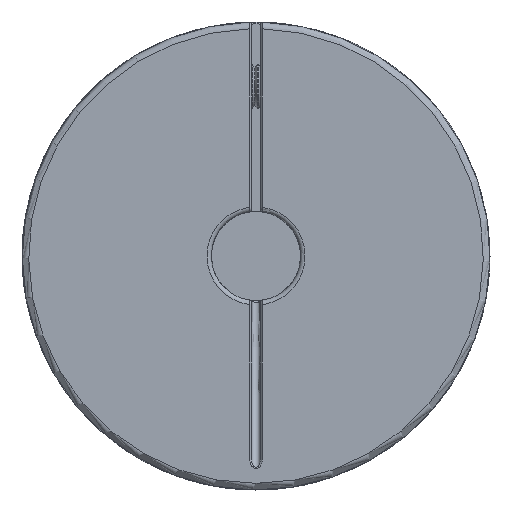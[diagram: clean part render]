
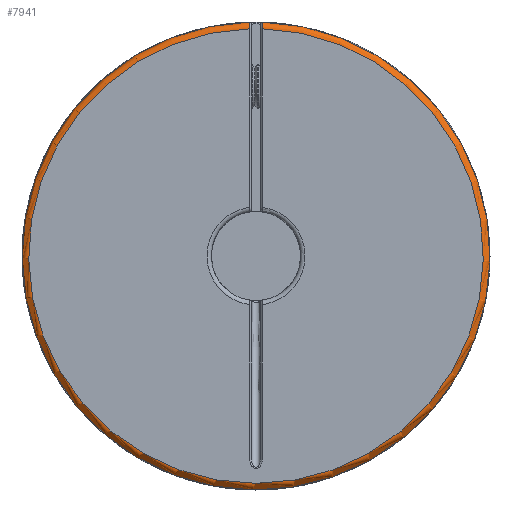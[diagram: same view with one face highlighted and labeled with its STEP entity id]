
A CAD part, left-side view. The second image highlights one B-rep face of the part: STEP entity #7941.
In plain terms, the highlighted toroidal (fillet/blend) face has major radius 51 mm and minor radius 1.5 mm.
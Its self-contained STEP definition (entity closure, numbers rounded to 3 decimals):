
#1332=B_SPLINE_CURVE_WITH_KNOTS('',3,(#16274,#16275,#16276,#16277,#16278,
#16279,#16280,#16281,#16282,#16283,#16284,#16285,#16286,#16287,#16288,#16289,
#16290,#16291),.UNSPECIFIED.,.F.,.F.,(4,2,2,2,2,2,2,2,4),(-0.236,
-0.214,-0.192,-0.177,-0.118,
-0.089,-0.067,-0.033,0.),
 .UNSPECIFIED.);
#1333=B_SPLINE_CURVE_WITH_KNOTS('',3,(#16294,#16295,#16296,#16297,#16298,
#16299,#16300,#16301,#16302,#16303,#16304,#16305,#16306,#16307,#16308,#16309,
#16310,#16311),.UNSPECIFIED.,.F.,.F.,(4,2,2,2,2,2,2,2,4),(-0.236,
-0.214,-0.192,-0.177,-0.118,
-0.089,-0.067,-0.033,0.),
 .UNSPECIFIED.);
#1705=FACE_OUTER_BOUND('',#2323,.T.);
#2323=EDGE_LOOP('',(#6250,#6251,#6252,#6253));
#3011=CIRCLE('',#8871,51.);
#3012=CIRCLE('',#8872,52.5);
#3650=VERTEX_POINT('',#16270);
#3651=VERTEX_POINT('',#16271);
#3652=VERTEX_POINT('',#16273);
#3653=VERTEX_POINT('',#16292);
#4579=EDGE_CURVE('',#3650,#3651,#3011,.T.);
#4580=EDGE_CURVE('',#3651,#3652,#1332,.T.);
#4581=EDGE_CURVE('',#3653,#3652,#3012,.T.);
#4582=EDGE_CURVE('',#3653,#3650,#1333,.T.);
#6250=ORIENTED_EDGE('',*,*,#4579,.T.);
#6251=ORIENTED_EDGE('',*,*,#4580,.T.);
#6252=ORIENTED_EDGE('',*,*,#4581,.F.);
#6253=ORIENTED_EDGE('',*,*,#4582,.T.);
#7655=TOROIDAL_SURFACE('',#8870,51.,1.5);
#7941=ADVANCED_FACE('',(#1705),#7655,.T.);
#8870=AXIS2_PLACEMENT_3D('',#16269,#10555,#10556);
#8871=AXIS2_PLACEMENT_3D('',#16272,#10557,#10558);
#8872=AXIS2_PLACEMENT_3D('',#16293,#10559,#10560);
#10555=DIRECTION('center_axis',(0.,1.,0.));
#10556=DIRECTION('ref_axis',(0.,0.,1.));
#10557=DIRECTION('center_axis',(0.,-1.,0.));
#10558=DIRECTION('ref_axis',(0.,0.,-1.));
#10559=DIRECTION('center_axis',(0.,-1.,0.));
#10560=DIRECTION('ref_axis',(0.,0.,-1.));
#16269=CARTESIAN_POINT('Origin',(0.,55.8,0.));
#16270=CARTESIAN_POINT('',(-1.4,57.3,50.981));
#16271=CARTESIAN_POINT('',(1.4,57.3,50.981));
#16272=CARTESIAN_POINT('Origin',(0.,57.3,0.));
#16273=CARTESIAN_POINT('',(1.411,55.8,52.481));
#16274=CARTESIAN_POINT('Ctrl Pts',(1.4,57.3,50.981));
#16275=CARTESIAN_POINT('Ctrl Pts',(1.401,57.3,51.055));
#16276=CARTESIAN_POINT('Ctrl Pts',(1.401,57.295,51.129));
#16277=CARTESIAN_POINT('Ctrl Pts',(1.402,57.273,51.275));
#16278=CARTESIAN_POINT('Ctrl Pts',(1.403,57.257,51.347));
#16279=CARTESIAN_POINT('Ctrl Pts',(1.404,57.221,51.465));
#16280=CARTESIAN_POINT('Ctrl Pts',(1.404,57.204,51.512));
#16281=CARTESIAN_POINT('Ctrl Pts',(1.406,57.11,51.738));
#16282=CARTESIAN_POINT('Ctrl Pts',(1.407,57.,51.903));
#16283=CARTESIAN_POINT('Ctrl Pts',(1.408,56.792,52.11));
#16284=CARTESIAN_POINT('Ctrl Pts',(1.409,56.717,52.172));
#16285=CARTESIAN_POINT('Ctrl Pts',(1.409,56.574,52.268));
#16286=CARTESIAN_POINT('Ctrl Pts',(1.41,56.51,52.304));
#16287=CARTESIAN_POINT('Ctrl Pts',(1.41,56.343,52.384));
#16288=CARTESIAN_POINT('Ctrl Pts',(1.41,56.239,52.42));
#16289=CARTESIAN_POINT('Ctrl Pts',(1.411,56.022,52.469));
#16290=CARTESIAN_POINT('Ctrl Pts',(1.411,55.911,52.481));
#16291=CARTESIAN_POINT('Ctrl Pts',(1.411,55.8,52.481));
#16292=CARTESIAN_POINT('',(-1.411,55.8,52.481));
#16293=CARTESIAN_POINT('Origin',(0.,55.8,0.));
#16294=CARTESIAN_POINT('Ctrl Pts',(-1.411,55.8,52.481));
#16295=CARTESIAN_POINT('Ctrl Pts',(-1.411,55.874,52.481));
#16296=CARTESIAN_POINT('Ctrl Pts',(-1.411,55.948,52.476));
#16297=CARTESIAN_POINT('Ctrl Pts',(-1.411,56.094,52.454));
#16298=CARTESIAN_POINT('Ctrl Pts',(-1.41,56.166,52.438));
#16299=CARTESIAN_POINT('Ctrl Pts',(-1.41,56.284,52.402));
#16300=CARTESIAN_POINT('Ctrl Pts',(-1.41,56.331,52.385));
#16301=CARTESIAN_POINT('Ctrl Pts',(-1.409,56.557,52.29));
#16302=CARTESIAN_POINT('Ctrl Pts',(-1.409,56.722,52.18));
#16303=CARTESIAN_POINT('Ctrl Pts',(-1.407,56.929,51.973));
#16304=CARTESIAN_POINT('Ctrl Pts',(-1.407,56.991,51.898));
#16305=CARTESIAN_POINT('Ctrl Pts',(-1.406,57.087,51.755));
#16306=CARTESIAN_POINT('Ctrl Pts',(-1.405,57.123,51.691));
#16307=CARTESIAN_POINT('Ctrl Pts',(-1.404,57.203,51.524));
#16308=CARTESIAN_POINT('Ctrl Pts',(-1.403,57.239,51.419));
#16309=CARTESIAN_POINT('Ctrl Pts',(-1.402,57.288,51.203));
#16310=CARTESIAN_POINT('Ctrl Pts',(-1.401,57.3,51.092));
#16311=CARTESIAN_POINT('Ctrl Pts',(-1.4,57.3,50.981));
